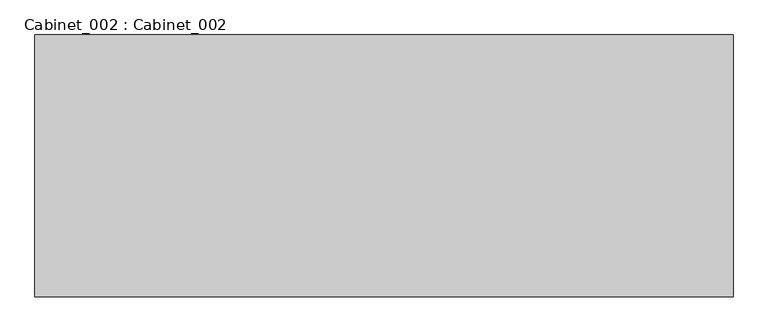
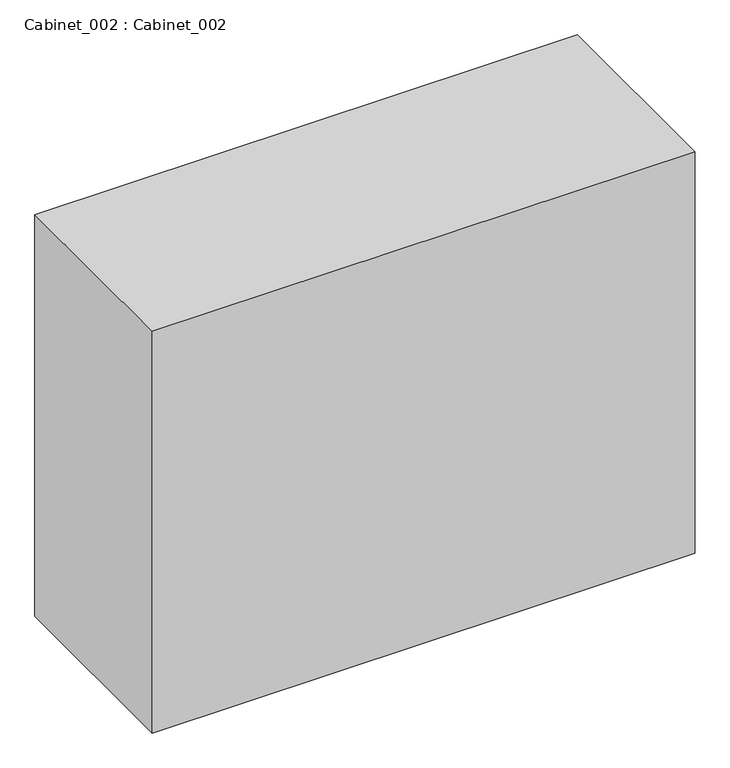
"""IFC4 building model written with IfcOpenShell, lengths in millimetres: furniture geometry, Cabinet_002 : Cabinet_002."""

from ifc_helpers import new_model, si_unit, origin, place, context, project, spatial, faceted_brep, source, transform, mapped, element, save


def cabinet_002_cabinet_002_ebadd603(model_context):
    return source(origin(), model_context, "Body", "Brep", [
        faceted_brep([(3255.7637879, 5939.7078799, 9037.8468453), (2030.7637879, 5939.7078799, 9037.8468453), (2030.7637879, 5480.5198069, 9037.8468453), (3255.7637879, 5480.5198069, 9037.8468453), (3255.7637879, 5939.7078799, 8080.0), (3255.7637879, 5480.5198069, 8080.0), (2030.7637879, 5480.5198069, 8080.0), (2030.7637879, 5939.7078799, 8080.0), (2107.7665814, 5939.7078799, 8080.0), (2107.7665814, 5929.7078799, 8080.0), (2117.7665814, 5929.7078799, 8080.0), (2117.7665814, 5939.7078799, 8080.0), (3167.7665814, 5939.7078799, 8080.0), (3167.7665814, 5929.7078799, 8080.0), (3177.7665814, 5929.7078799, 8080.0), (3177.7665814, 5939.7078799, 8080.0), (3177.7665814, 5939.7078799, 8949.2922188), (2107.7665814, 5939.7078799, 8949.2922188), (2117.7665814, 5939.7078799, 8921.6124512), (3167.7665814, 5939.7078799, 8921.6124512), (3167.7665814, 5939.7078799, 8669.7104187), (2117.7665814, 5939.7078799, 8669.7104187), (2117.7665814, 5939.7078799, 8664.8602734), (3167.7665814, 5939.7078799, 8664.8602734), (3167.7665814, 5939.7078799, 8384.8883657), (2117.7665814, 5939.7078799, 8384.8883657), (2117.7665814, 5939.7078799, 8381.9349622), (3167.7665814, 5939.7078799, 8381.9349622), (3177.7665814, 5929.7078799, 8949.2922188), (2107.7665814, 5929.7078799, 8949.2922188), (2117.7665814, 5929.7078799, 8921.6124512), (3167.7665814, 5929.7078799, 8921.6124512), (3167.7665814, 5929.7078799, 8381.9349622), (2117.7665814, 5929.7078799, 8381.9349622), (2117.7665814, 5929.7078799, 8669.7104187), (3167.7665814, 5929.7078799, 8669.7104187), (3167.7665814, 5929.7078799, 8664.8602734), (2117.7665814, 5929.7078799, 8664.8602734), (2117.7665814, 5929.7078799, 8384.8883657), (3167.7665814, 5929.7078799, 8384.8883657)], [[[0, 1, 2, 3]], [[4, 5, 6, 7, 8, 9, 10, 11, 12, 13, 14, 15]], [[1, 0, 4, 15, 16, 17, 8, 7]], [[18, 19, 20, 21]], [[22, 23, 24, 25]], [[26, 27, 12, 11]], [[2, 1, 7, 6]], [[3, 2, 6, 5]], [[0, 3, 5, 4]], [[16, 28, 29, 17]], [[30, 31, 19, 18]], [[32, 33, 10, 9, 29, 28, 14, 13], [31, 30, 34, 35], [36, 37, 38, 39]], [[35, 34, 21, 20]], [[37, 36, 23, 22]], [[39, 38, 25, 24]], [[33, 32, 27, 26]], [[31, 35, 20, 19]], [[36, 39, 24, 23]], [[32, 13, 12, 27]], [[28, 16, 15, 14]], [[17, 29, 9, 8]], [[34, 30, 18, 21]], [[38, 37, 22, 25]], [[10, 33, 26, 11]]]),
    ])


if __name__ == "__main__":
    model = new_model("IFC4")
    model_context = context("Model", 3, world=origin())
    ifc_project = project(units=[si_unit("LENGTHUNIT", "METRE", prefix="MILLI")], contexts=[model_context])
    site = spatial("IfcSite", under=ifc_project)
    building = spatial("IfcBuilding", under=site)
    placement = place(None, origin())
    cabinet_002_cabinet_002_shape = cabinet_002_cabinet_002_ebadd603(model_context)
    element("IfcFurniture", 1, ObjectType="Cabinet_002 : Cabinet_002", at=placement, inside=building, context=model_context, shape_type="MappedRepresentation", body=[
        mapped(cabinet_002_cabinet_002_shape, transform((0.0, 0.0, 0.0), x_axis=(1.0, 0.0, 0.0), y_axis=(0.0, 1.0, 0.0), z_axis=(0.0, 0.0, 1.0))),
    ])
    save(model, "model.ifc")
